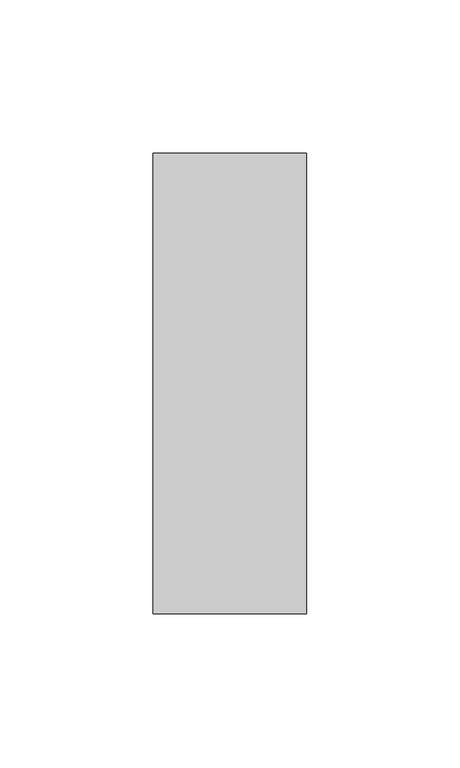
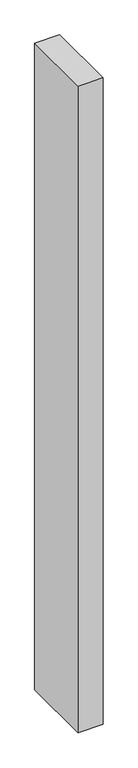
"""IFC4 building model written with IfcOpenShell, lengths in millimetres: member geometry, Прямоугольный импост : 50 x 150 мм."""

from ifc_helpers import new_model, si_unit, frame, origin, place, context, project, spatial, polyline, outline, extrude, source, transform, mapped, element, save


def member_3ff0e706(model_context):
    return source(origin(), model_context, "Body", "SweptSolid", [
        extrude(outline(polyline([(25.0, 75.0), (25.0, -75.0), (-25.0, -75.0), (-25.0, 75.0), (25.0, 75.0)])), frame((0.0, 0.0, -1368.1865786), z_axis=(0.0, 0.0, 1.0), x_axis=(1.0, 0.0, 0.0)), (0.0, 0.0, 1.0), 1368.1865786),
    ])


if __name__ == "__main__":
    model = new_model("IFC4")
    model_context = context("Model", 3, world=origin())
    ifc_project = project(units=[si_unit("LENGTHUNIT", "METRE", prefix="MILLI")], contexts=[model_context])
    site = spatial("IfcSite", under=ifc_project)
    building = spatial("IfcBuilding", under=site)
    placement = place(None, origin())
    member_shape = member_3ff0e706(model_context)
    element("IfcMember", 1, ObjectType="Прямоугольный импост : 50 x 150 мм", at=placement, inside=building, context=model_context, shape_type="MappedRepresentation", body=[
        mapped(member_shape, transform((0.0, 0.0, 0.0), x_axis=(1.0, 0.0, 0.0), y_axis=(0.0, 1.0, 0.0), z_axis=(0.0, 0.0, 1.0))),
    ])
    save(model, "model.ifc")
